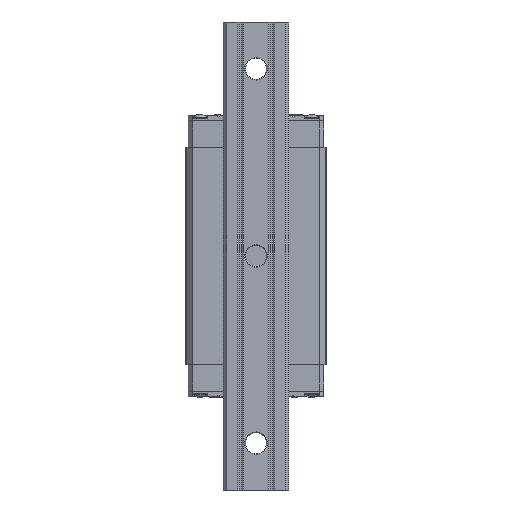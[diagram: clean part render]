
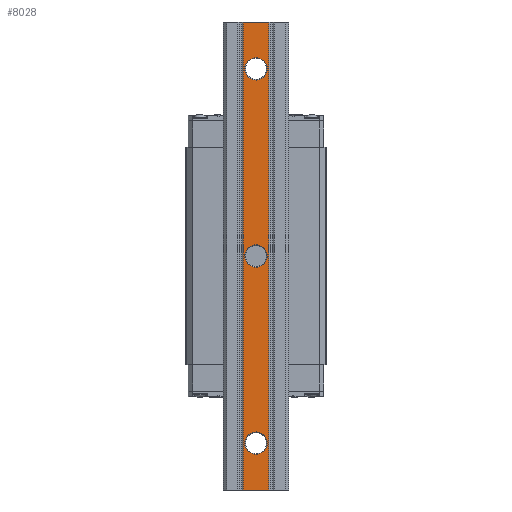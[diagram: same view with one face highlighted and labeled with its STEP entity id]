
A CAD part, front view. The second image highlights one B-rep face of the part: STEP entity #8028.
In plain terms, the highlighted planar face has unit normal (0, -1, 0).
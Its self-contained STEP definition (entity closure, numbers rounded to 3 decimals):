
#7587=FACE_BOUND('',#10578,.T.);
#7588=FACE_BOUND('',#10579,.T.);
#7589=FACE_BOUND('',#10580,.T.);
#7590=FACE_BOUND('',#10581,.T.);
#8028=ADVANCED_FACE('',(#7587,#7588,#7589,#7590),#9046,.T.);
#9046=PLANE('',#25587);
#10578=EDGE_LOOP('',(#15132,#15133,#15134,#15135));
#10579=EDGE_LOOP('',(#15136,#15137,#15138,#15139));
#10580=EDGE_LOOP('',(#15140,#15141,#15142,#15143));
#10581=EDGE_LOOP('',(#15144,#15145,#15146,#15147));
#11724=LINE('',#31547,#13310);
#11773=LINE('',#31689,#13359);
#11774=LINE('',#31691,#13360);
#11775=LINE('',#31693,#13361);
#13310=VECTOR('',#26979,1.);
#13359=VECTOR('',#27112,1.);
#13360=VECTOR('',#27115,1.);
#13361=VECTOR('',#27116,1.);
#15132=ORIENTED_EDGE('',*,*,#22352,.T.);
#15133=ORIENTED_EDGE('',*,*,#22353,.F.);
#15134=ORIENTED_EDGE('',*,*,#22354,.F.);
#15135=ORIENTED_EDGE('',*,*,#22281,.T.);
#15136=ORIENTED_EDGE('',*,*,#22355,.F.);
#15137=ORIENTED_EDGE('',*,*,#22356,.F.);
#15138=ORIENTED_EDGE('',*,*,#22357,.F.);
#15139=ORIENTED_EDGE('',*,*,#22358,.F.);
#15140=ORIENTED_EDGE('',*,*,#22359,.F.);
#15141=ORIENTED_EDGE('',*,*,#22360,.F.);
#15142=ORIENTED_EDGE('',*,*,#22361,.F.);
#15143=ORIENTED_EDGE('',*,*,#22362,.F.);
#15144=ORIENTED_EDGE('',*,*,#22363,.F.);
#15145=ORIENTED_EDGE('',*,*,#22364,.F.);
#15146=ORIENTED_EDGE('',*,*,#22365,.F.);
#15147=ORIENTED_EDGE('',*,*,#22366,.F.);
#20467=VERTEX_POINT('',#31546);
#20468=VERTEX_POINT('',#31548);
#20518=VERTEX_POINT('',#31688);
#20519=VERTEX_POINT('',#31692);
#20520=VERTEX_POINT('',#31695);
#20521=VERTEX_POINT('',#31696);
#20522=VERTEX_POINT('',#31698);
#20523=VERTEX_POINT('',#31700);
#20524=VERTEX_POINT('',#31703);
#20525=VERTEX_POINT('',#31704);
#20526=VERTEX_POINT('',#31706);
#20527=VERTEX_POINT('',#31708);
#20528=VERTEX_POINT('',#31711);
#20529=VERTEX_POINT('',#31712);
#20530=VERTEX_POINT('',#31714);
#20531=VERTEX_POINT('',#31716);
#22281=EDGE_CURVE('',#20468,#20467,#11724,.T.);
#22352=EDGE_CURVE('',#20467,#20518,#11773,.T.);
#22353=EDGE_CURVE('',#20519,#20518,#11774,.T.);
#22354=EDGE_CURVE('',#20468,#20519,#11775,.T.);
#22355=EDGE_CURVE('',#20520,#20521,#25015,.T.);
#22356=EDGE_CURVE('',#20522,#20520,#25016,.T.);
#22357=EDGE_CURVE('',#20523,#20522,#25017,.T.);
#22358=EDGE_CURVE('',#20521,#20523,#25018,.T.);
#22359=EDGE_CURVE('',#20524,#20525,#25019,.T.);
#22360=EDGE_CURVE('',#20526,#20524,#25020,.T.);
#22361=EDGE_CURVE('',#20527,#20526,#25021,.T.);
#22362=EDGE_CURVE('',#20525,#20527,#25022,.T.);
#22363=EDGE_CURVE('',#20528,#20529,#25023,.T.);
#22364=EDGE_CURVE('',#20530,#20528,#25024,.T.);
#22365=EDGE_CURVE('',#20531,#20530,#25025,.T.);
#22366=EDGE_CURVE('',#20529,#20531,#25026,.T.);
#25015=CIRCLE('',#25575,4.8);
#25016=CIRCLE('',#25576,4.8);
#25017=CIRCLE('',#25577,4.8);
#25018=CIRCLE('',#25578,4.8);
#25019=CIRCLE('',#25579,4.8);
#25020=CIRCLE('',#25580,4.8);
#25021=CIRCLE('',#25581,4.8);
#25022=CIRCLE('',#25582,4.8);
#25023=CIRCLE('',#25583,4.8);
#25024=CIRCLE('',#25584,4.8);
#25025=CIRCLE('',#25585,4.8);
#25026=CIRCLE('',#25586,4.8);
#25575=AXIS2_PLACEMENT_3D('',#31694,#27117,#27118);
#25576=AXIS2_PLACEMENT_3D('',#31697,#27119,#27120);
#25577=AXIS2_PLACEMENT_3D('',#31699,#27121,#27122);
#25578=AXIS2_PLACEMENT_3D('',#31701,#27123,#27124);
#25579=AXIS2_PLACEMENT_3D('',#31702,#27125,#27126);
#25580=AXIS2_PLACEMENT_3D('',#31705,#27127,#27128);
#25581=AXIS2_PLACEMENT_3D('',#31707,#27129,#27130);
#25582=AXIS2_PLACEMENT_3D('',#31709,#27131,#27132);
#25583=AXIS2_PLACEMENT_3D('',#31710,#27133,#27134);
#25584=AXIS2_PLACEMENT_3D('',#31713,#27135,#27136);
#25585=AXIS2_PLACEMENT_3D('',#31715,#27137,#27138);
#25586=AXIS2_PLACEMENT_3D('',#31717,#27139,#27140);
#25587=AXIS2_PLACEMENT_3D('',#31718,#27141,#27142);
#26979=DIRECTION('',(1.,0.,0.));
#27112=DIRECTION('',(0.,0.,1.));
#27115=DIRECTION('',(1.,0.,0.));
#27116=DIRECTION('',(0.,0.,1.));
#27117=DIRECTION('',(0.,-1.,0.));
#27118=DIRECTION('',(0.,0.,1.));
#27119=DIRECTION('',(0.,-1.,0.));
#27120=DIRECTION('',(1.,0.,0.));
#27121=DIRECTION('',(0.,-1.,0.));
#27122=DIRECTION('',(0.,0.,-1.));
#27123=DIRECTION('',(0.,-1.,0.));
#27124=DIRECTION('',(-1.,0.,0.));
#27125=DIRECTION('',(0.,-1.,0.));
#27126=DIRECTION('',(0.,0.,1.));
#27127=DIRECTION('',(0.,-1.,0.));
#27128=DIRECTION('',(1.,0.,0.));
#27129=DIRECTION('',(0.,-1.,0.));
#27130=DIRECTION('',(0.,0.,-1.));
#27131=DIRECTION('',(0.,-1.,0.));
#27132=DIRECTION('',(-1.,0.,0.));
#27133=DIRECTION('',(0.,-1.,0.));
#27134=DIRECTION('',(0.,0.,1.));
#27135=DIRECTION('',(0.,-1.,0.));
#27136=DIRECTION('',(1.,0.,0.));
#27137=DIRECTION('',(0.,-1.,0.));
#27138=DIRECTION('',(0.,0.,-1.));
#27139=DIRECTION('',(0.,-1.,0.));
#27140=DIRECTION('',(-1.,0.,0.));
#27141=DIRECTION('',(0.,-1.,0.));
#27142=DIRECTION('',(1.,0.,0.));
#31546=CARTESIAN_POINT('',(5.55,-26.,-100.));
#31547=CARTESIAN_POINT('',(-5.55,-26.,-100.));
#31548=CARTESIAN_POINT('',(-5.55,-26.,-100.));
#31688=CARTESIAN_POINT('',(5.55,-26.,100.));
#31689=CARTESIAN_POINT('',(5.55,-26.,-100.));
#31691=CARTESIAN_POINT('',(-5.55,-26.,100.));
#31692=CARTESIAN_POINT('',(-5.55,-26.,100.));
#31693=CARTESIAN_POINT('',(-5.55,-26.,-100.));
#31694=CARTESIAN_POINT('',(0.,-26.,-80.));
#31695=CARTESIAN_POINT('',(0.,-26.,-75.2));
#31696=CARTESIAN_POINT('',(-4.8,-26.,-80.));
#31697=CARTESIAN_POINT('',(0.,-26.,-80.));
#31698=CARTESIAN_POINT('',(4.8,-26.,-80.));
#31699=CARTESIAN_POINT('',(0.,-26.,-80.));
#31700=CARTESIAN_POINT('',(0.,-26.,-84.8));
#31701=CARTESIAN_POINT('',(0.,-26.,-80.));
#31702=CARTESIAN_POINT('',(0.,-26.,0.));
#31703=CARTESIAN_POINT('',(0.,-26.,4.8));
#31704=CARTESIAN_POINT('',(-4.8,-26.,0.));
#31705=CARTESIAN_POINT('',(0.,-26.,0.));
#31706=CARTESIAN_POINT('',(4.8,-26.,0.));
#31707=CARTESIAN_POINT('',(0.,-26.,0.));
#31708=CARTESIAN_POINT('',(0.,-26.,-4.8));
#31709=CARTESIAN_POINT('',(0.,-26.,0.));
#31710=CARTESIAN_POINT('',(0.,-26.,80.));
#31711=CARTESIAN_POINT('',(0.,-26.,84.8));
#31712=CARTESIAN_POINT('',(-4.8,-26.,80.));
#31713=CARTESIAN_POINT('',(0.,-26.,80.));
#31714=CARTESIAN_POINT('',(4.8,-26.,80.));
#31715=CARTESIAN_POINT('',(0.,-26.,80.));
#31716=CARTESIAN_POINT('',(0.,-26.,75.2));
#31717=CARTESIAN_POINT('',(0.,-26.,80.));
#31718=CARTESIAN_POINT('',(-5.55,-26.,-100.));
